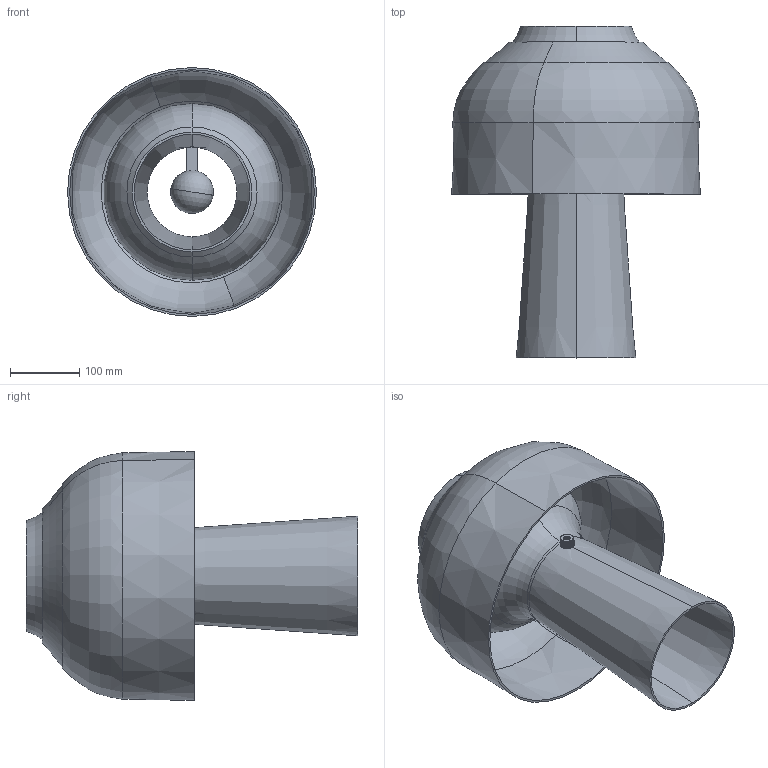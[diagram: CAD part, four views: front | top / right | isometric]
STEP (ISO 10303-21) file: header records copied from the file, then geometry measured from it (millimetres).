
FILE_DESCRIPTION (( 'STEP AP203' ), '1' );
FILE_NAME ('CT311ABINT.STEP', '2024-02-06T10:36:37', ( '' ), ( '' ), 'SwSTEP 2.0', 'SolidWorks 2019', '' );
FILE_SCHEMA (( 'CONFIG_CONTROL_DESIGN' ));
Length unit declared in the file: millimetre
Products named in the file (10): 10CP311EZ; 10CP311BZ; 10CT311BB; CT311ABINT; 10CP311AZ; 70PT0021N; Lampadina; 10CP311DZ; 10CT311AB; 70BC0090Z
Assembly tree (13 placements, depth 2):
  CT311ABINT
    10CT311AB
    10CT311BB
    70PT0021N  x2
    Lampadina  x2
    10CP311BZ
    10CP311AZ
    10CP311DZ
    10CP311EZ  x2
    70BC0090Z  x2
Bounding box: 359.99 x 480 x 359.99 mm (x, y, z)
Volume: 1735754.2 mm3; surface area: 1225941.6 mm2
Topology: 12 solids, 16 shells, 890 faces, 2395 edges, 1570 vertices
Faces by surface type: plane 639, cylinder 144, torus 60, cone 27, bspline 12, sphere 8
Entity records: 31895 total; most frequent: CARTESIAN_POINT 12235, ORIENTED_EDGE 4382, DIRECTION 3316, EDGE_CURVE 2193, VERTEX_POINT 1443, VECTOR 1278, LINE 1278, AXIS2_PLACEMENT_3D 1019
